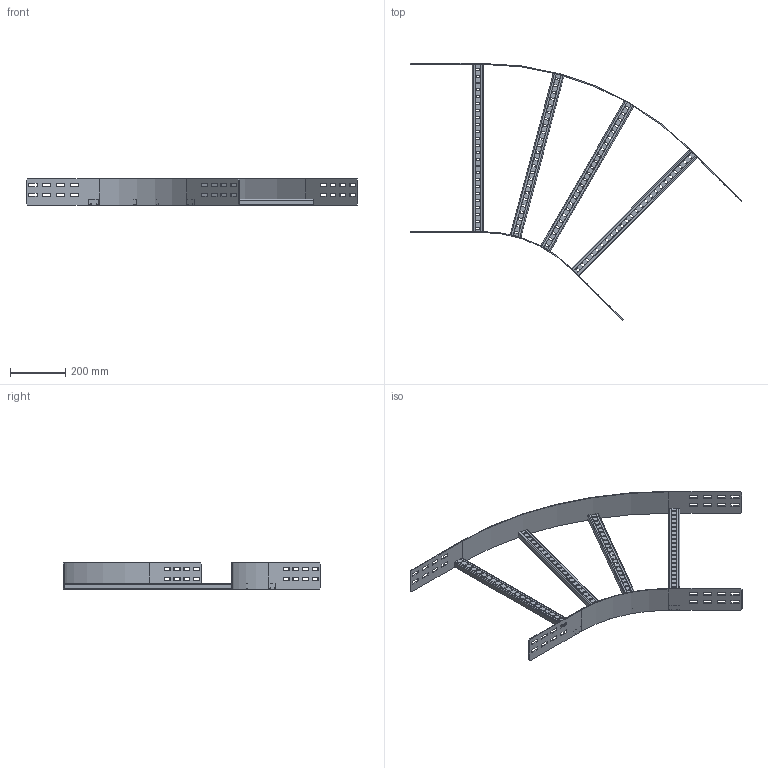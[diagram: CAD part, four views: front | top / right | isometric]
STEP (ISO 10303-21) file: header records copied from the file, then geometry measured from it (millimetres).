
FILE_DESCRIPTION(('Creo Elements/Direct Modeling STEP Export'),'2;1');
FILE_NAME('WPHB10-60-45-45.stp','2016-05-20T 8:32:50',(''),(''),'PTC Creo Elements/Direct Modeling STEP processor for AP214 (Solid Model)','PTC Creo Elements/Direct Modeling 19.0C 15-Aug-2015 (C) Parametric Technology GmbH','');
FILE_SCHEMA(('AUTOMOTIVE_DESIGN { 1 0 10303 214 1 1 1 1 }'));
Length unit declared in the file: millimetre
Products named in the file (4): WPBA_100-60-45; WPHBS60.002; WPBI_100-45; WPHB10-60-45-45
Assembly tree (6 placements, depth 2):
  WPHB10-60-45-45
    WPHBS60.002  x4
    WPBI_100-45
    WPBA_100-60-45
Bounding box: 1200.5 x 929.31 x 95 mm (x, y, z)
Volume: 958711.3 mm3; surface area: 911407.2 mm2
Topology: 6 solids, 6 shells, 700 faces, 2064 edges, 1376 vertices
Faces by surface type: plane 432, cylinder 268
Entity records: 9990 total; most frequent: CARTESIAN_POINT 1728, ORIENTED_EDGE 1716, DIRECTION 1594, EDGE_CURVE 858, VECTOR 718, LINE 718, VERTEX_POINT 572, AXIS2_PLACEMENT_3D 438
